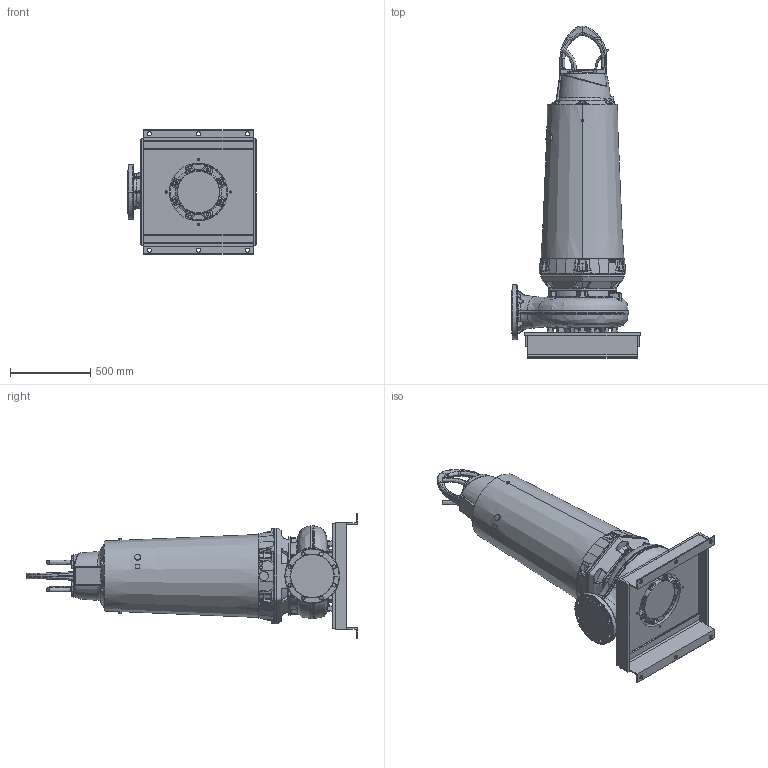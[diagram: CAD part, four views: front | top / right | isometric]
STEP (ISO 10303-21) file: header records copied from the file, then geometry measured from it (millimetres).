
FILE_DESCRIPTION (( 'STEP AP214' ), '1' );
FILE_NAME ('PE5_XFP200J-CH2_DRY_B_NG2.STEP', '2017-03-15T08:03:43', ( '' ), ( '' ), 'SwSTEP 2.0', 'SolidWorks 2017', '' );
FILE_SCHEMA (( 'AUTOMOTIVE_DESIGN' ));
Length unit declared in the file: millimetre
Products named in the file (1): PE5_XFP200J-CH2_DRY_B_NG2
Bounding box: 800 x 2064.47 x 775 mm (x, y, z)
Volume: 300228422 mm3; surface area: 4923710.7 mm2
Topology: 3 solids, 3 shells, 2447 faces, 6142 edges, 3637 vertices
Faces by surface type: bspline 903, plane 478, cylinder 472, cone 284, torus 272, sphere 38
Entity records: 173960 total; most frequent: CARTESIAN_POINT 96469, ORIENTED_EDGE 12076, DIRECTION 8682, EDGE_CURVE 6038, VERTEX_POINT 3637, AXIS2_PLACEMENT_3D 3605, EDGE_LOOP 2531, UNCERTAINTY_MEASURE_WITH_UNIT 2452
